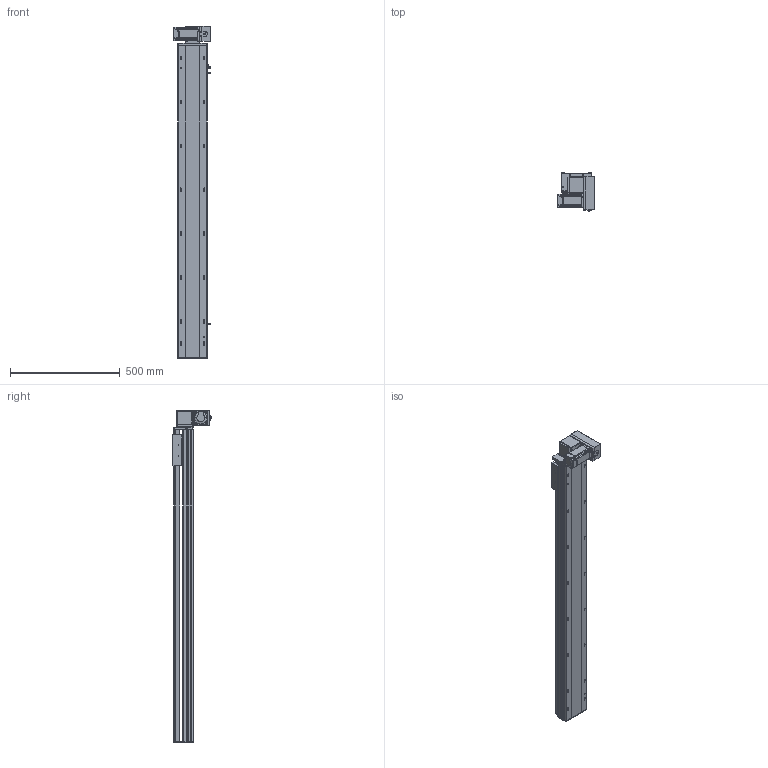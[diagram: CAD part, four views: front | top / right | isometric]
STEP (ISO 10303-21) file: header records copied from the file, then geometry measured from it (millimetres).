
FILE_DESCRIPTION (( 'STEP AP214' ), '1' );
FILE_NAME ('TPT14M-L40-1150-RD-T40-C4.STEP', '2023-03-06T01:58:30', ( '' ), ( '' ), 'SwSTEP 2.0', 'SolidWorks 2020', '' );
FILE_SCHEMA (( 'AUTOMOTIVE_DESIGN' ));
Length unit declared in the file: millimetre
Products named in the file (9): hexagon head bolts-full thread gb_GB_FASTENER_BOLT_STBAB A M5X16-N; 葩璃 TPT14-L-009 萇儂啣^TPT14M-L40-RD-T40-C4_400W; 葩璃 侂狟400W^TPT14M-L40-RD-T40-C4; 葩璃 TPT14-L-001 菁釱MZ-135-01^TPT14M-L40-RD-T40-C4; 葩璃 TPT14-L-007 々湍釱MZ-169x88^TPT14M-L40-RD-T40-C4_YTB14M; TPT14M-L40-1150-RD-T40-C4; 葩璃 pm-t65-672^TPT14M-L40-RD-T40-C4; 葩璃 TPT14-L-002 奻裔MZ-135-05^TPT14M-L40-RD-T40-C4; 葩璃 TPT14-L-005 賑釱MZ-135-07^TPT14M-L40-RD-T40-C4
Assembly tree (10 placements, depth 2):
  TPT14M-L40-1150-RD-T40-C4
    葩璃 TPT14-L-001 菁釱MZ-135-01^TPT14M-L40-RD-T40-C4
    葩璃 TPT14-L-002 奻裔MZ-135-05^TPT14M-L40-RD-T40-C4
    葩璃 TPT14-L-005 賑釱MZ-135-07^TPT14M-L40-RD-T40-C4
    葩璃 TPT14-L-007 々湍釱MZ-169x88^TPT14M-L40-RD-T40-C4_YTB14M
    葩璃 TPT14-L-009 萇儂啣^TPT14M-L40-RD-T40-C4_400W
    葩璃 pm-t65-672^TPT14M-L40-RD-T40-C4  x3
    葩璃 侂狟400W^TPT14M-L40-RD-T40-C4
    hexagon head bolts-full thread gb_GB_FASTENER_BOLT_STBAB A M5X16-N
Bounding box: 170.5 x 173.45 x 1510.5 mm (x, y, z)
Volume: 9522555.8 mm3; surface area: 1416659.7 mm2
Topology: 18 solids, 18 shells, 1458 faces, 3817 edges, 2436 vertices
Faces by surface type: plane 770, cylinder 516, cone 146, bspline 26
Entity records: 39700 total; most frequent: CARTESIAN_POINT 7334, DIRECTION 6564, ORIENTED_EDGE 6186, EDGE_CURVE 3093, AXIS2_PLACEMENT_3D 2322, VERTEX_POINT 2012, LINE 1920, VECTOR 1920
